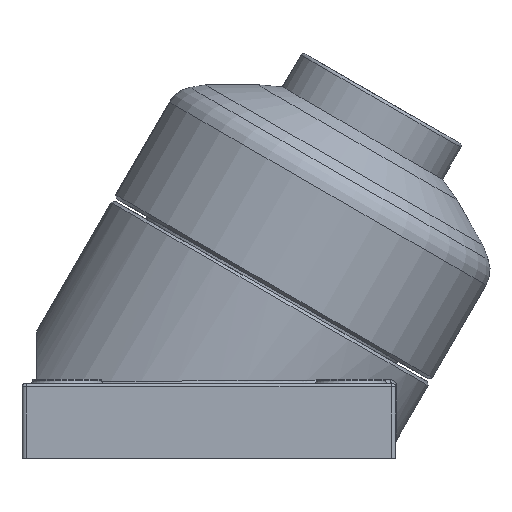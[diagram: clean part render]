
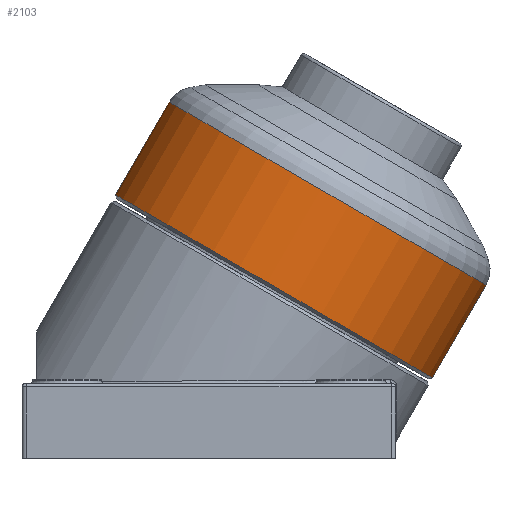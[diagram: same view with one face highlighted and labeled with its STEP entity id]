
A CAD part, left-side view. The second image highlights one B-rep face of the part: STEP entity #2103.
In plain terms, the highlighted cylindrical face has radius 122.5 mm (diameter 245 mm), a full revolution.
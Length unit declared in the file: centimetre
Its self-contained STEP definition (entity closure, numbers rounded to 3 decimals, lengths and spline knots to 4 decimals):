
#328=FACE_BOUND('',#707,.T.);
#466=FACE_OUTER_BOUND('',#706,.T.);
#706=EDGE_LOOP('',(#1665));
#707=EDGE_LOOP('',(#1666));
#892=CIRCLE('',#2369,12.25);
#893=CIRCLE('',#2371,12.25);
#1062=VERTEX_POINT('',#3919);
#1063=VERTEX_POINT('',#3922);
#1277=EDGE_CURVE('',#1062,#1062,#892,.T.);
#1278=EDGE_CURVE('',#1063,#1063,#893,.T.);
#1665=ORIENTED_EDGE('',*,*,#1277,.F.);
#1666=ORIENTED_EDGE('',*,*,#1278,.F.);
#1829=CYLINDRICAL_SURFACE('',#2370,12.25);
#2103=ADVANCED_FACE('',(#466,#328),#1829,.T.);
#2369=AXIS2_PLACEMENT_3D('',#3920,#2920,#2921);
#2370=AXIS2_PLACEMENT_3D('',#3921,#2922,#2923);
#2371=AXIS2_PLACEMENT_3D('',#3923,#2924,#2925);
#2920=DIRECTION('center_axis',(0.,-0.5,0.866));
#2921=DIRECTION('ref_axis',(-0.976,0.187,0.108));
#2922=DIRECTION('center_axis',(0.,-0.5,0.866));
#2923=DIRECTION('ref_axis',(0.976,-0.187,-0.108));
#2924=DIRECTION('center_axis',(0.,0.5,-0.866));
#2925=DIRECTION('ref_axis',(-0.976,0.187,0.108));
#3919=CARTESIAN_POINT('',(11.9608,-4.2319,16.4008));
#3920=CARTESIAN_POINT('Origin',(0.,-1.9404,17.7238));
#3921=CARTESIAN_POINT('Origin',(0.,-0.0977,
14.5322));
#3922=CARTESIAN_POINT('',(11.9608,-0.6466,10.1907));
#3923=CARTESIAN_POINT('Origin',(0.,1.645,11.5138));
